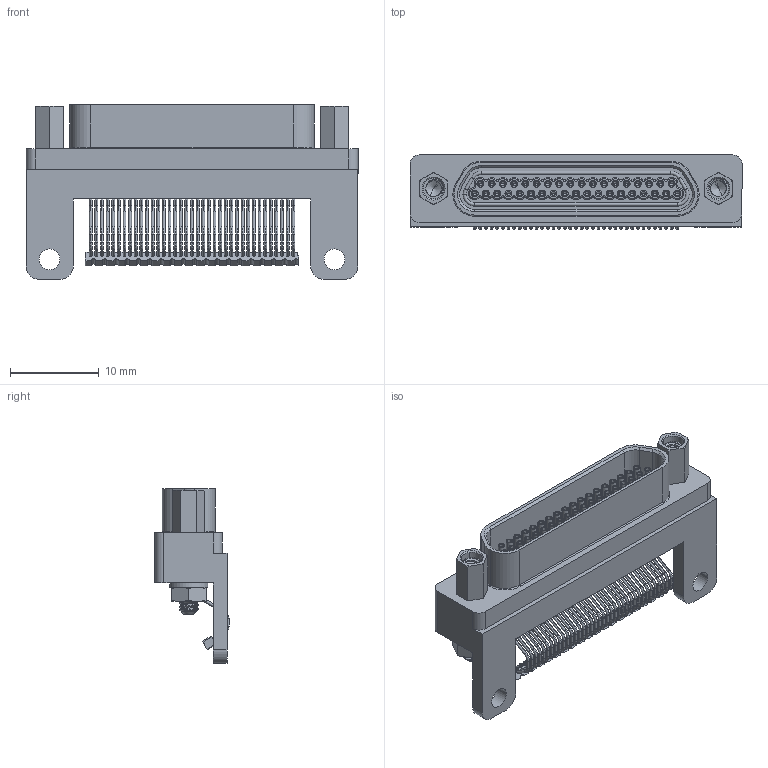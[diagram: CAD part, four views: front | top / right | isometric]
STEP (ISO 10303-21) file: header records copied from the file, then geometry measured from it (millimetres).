
FILE_DESCRIPTION (( 'STEP AP214' ), '1' );
FILE_NAME ('A99601-037 REV C.STEP', '2017-02-02T13:38:18', ( '' ), ( '' ), 'SwSTEP 2.0', 'SolidWorks 2016', '' );
FILE_SCHEMA (( 'AUTOMOTIVE_DESIGN' ));
Length unit declared in the file: inch
Products named in the file (1): A99601-037 REV B
Bounding box: 37.47 x 8.38 x 19.71 mm (x, y, z)
Volume: 2216.5 mm3; surface area: 4065.6 mm2
Topology: 1 solids, 4 shells, 2183 faces, 5708 edges, 3514 vertices
Faces by surface type: cylinder 965, plane 625, torus 383, cone 136, bspline 74
Entity records: 79015 total; most frequent: CARTESIAN_POINT 24483, DIRECTION 12014, ORIENTED_EDGE 11248, EDGE_CURVE 5624, AXIS2_PLACEMENT_3D 4705, VERTEX_POINT 3514, VECTOR 2604, LINE 2604
